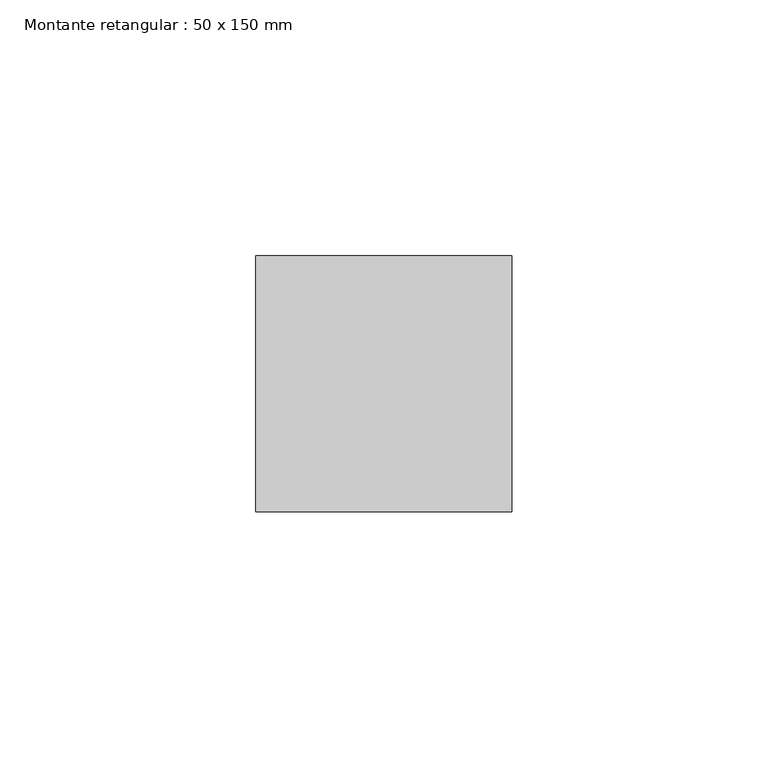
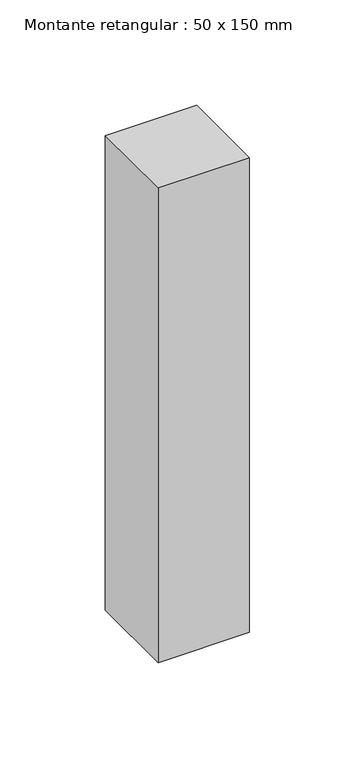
"""IFC4 building model written with IfcOpenShell, lengths in millimetres: member geometry, Montante retangular : 50 x 150 mm."""

from ifc_helpers import new_model, si_unit, frame, origin, place, context, project, spatial, polyline, outline, extrude, source, transform, mapped, element, save


def montante_retangular_50_x_150_mm_7d8db8d4(model_context):
    return source(origin(), model_context, "Body", "SweptSolid", [
        extrude(outline(polyline([(25.0, 25.0), (25.0, -25.0), (-25.0, -25.0), (-25.0, 25.0), (25.0, 25.0)])), frame((0.0, 0.0, -274.8945406), z_axis=(0.0, 0.0, 1.0), x_axis=(1.0, 0.0, 0.0)), (0.0, 0.0, 1.0), 274.8945406),
    ])


if __name__ == "__main__":
    model = new_model("IFC4")
    model_context = context("Model", 3, world=origin())
    ifc_project = project(units=[si_unit("LENGTHUNIT", "METRE", prefix="MILLI")], contexts=[model_context])
    site = spatial("IfcSite", under=ifc_project)
    building = spatial("IfcBuilding", under=site)
    placement = place(None, origin())
    montante_retangular_50_x_150_mm_shape = montante_retangular_50_x_150_mm_7d8db8d4(model_context)
    element("IfcMember", 1, ObjectType="Montante retangular : 50 x 150 mm", at=placement, inside=building, context=model_context, shape_type="MappedRepresentation", body=[
        mapped(montante_retangular_50_x_150_mm_shape, transform((0.0, 0.0, 0.0), x_axis=(1.0, 0.0, 0.0), y_axis=(0.0, 1.0, 0.0), z_axis=(0.0, 0.0, 1.0))),
    ])
    save(model, "model.ifc")
